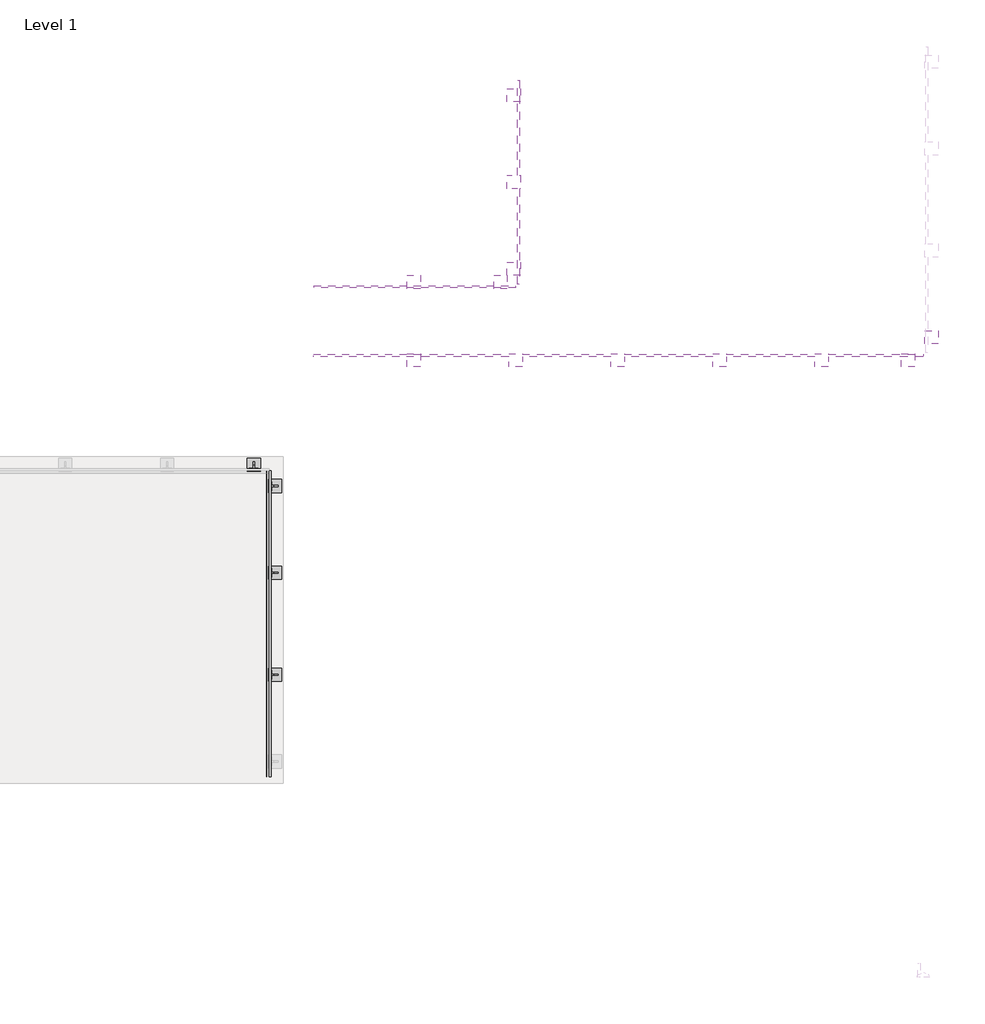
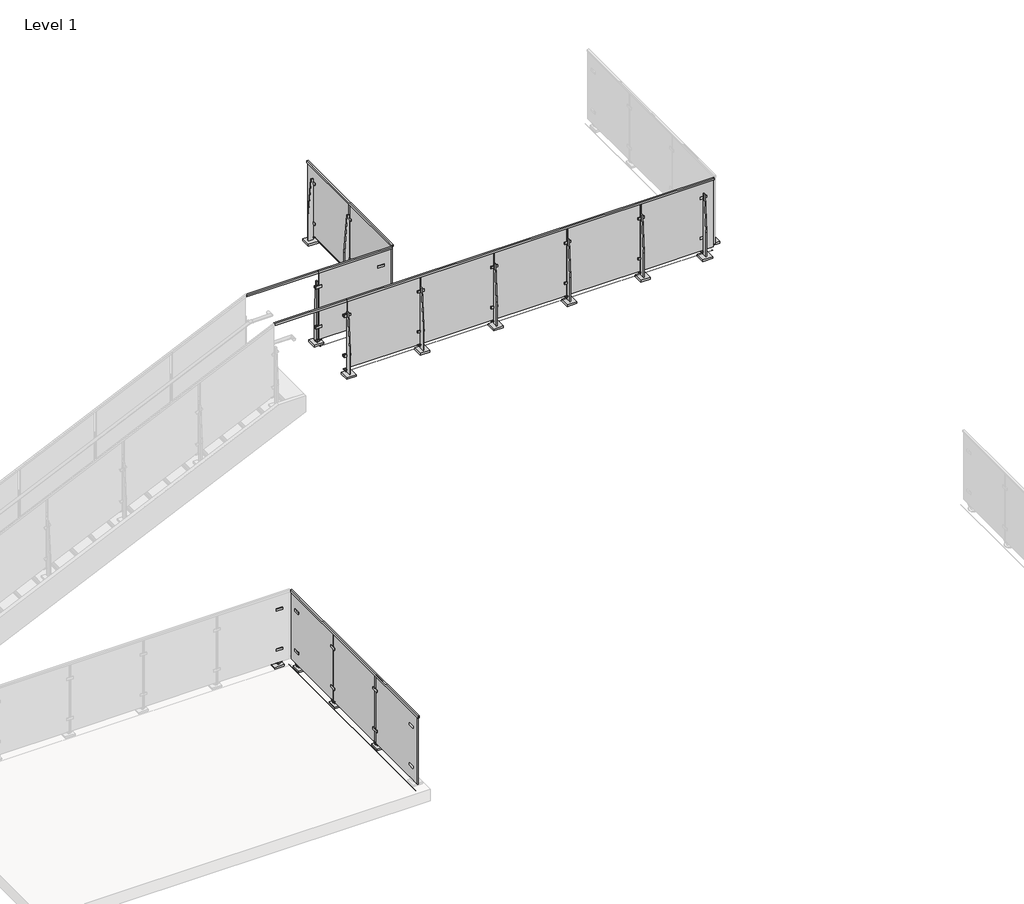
# One storey, part 12 of 37: 9 proxies, 4 railings.
"""IFC4 building model written with IfcOpenShell, lengths in millimetres."""

from ifc_helpers import new_model, si_unit, point, frame, frame_2d, origin, origin_with_axes, place, context, project, spatial, polyline, circle_curve, trimmed, segment, composite_curve, outline, extrude, faceted_brep, transform, mapped, element, save
from components import baluster_end_post_viva_solo_top_mount_e11f810b, baluster_end_post_viva_solo_top_mount_e7142cd7, baluster_end_post_viva_solo_top_mount_a5670d43, baluster_end_post_viva_solo_top_mount_67941749

model = new_model("IFC4")

# Units and contexts
model_context = context("Model", 3, world=origin())
ifc_project = project(units=[si_unit("LENGTHUNIT", "METRE", prefix="MILLI")], contexts=[model_context])

# Site, building, storey
site = spatial("IfcSite", under=ifc_project)
building = spatial("IfcBuilding", under=site)
storey = spatial("IfcBuildingStorey", under=building, Name="Level 1", Elevation=0.0)

# Proxies
placement = place(None, origin())
baluster_end_post_viva_solo_top_mount_shape = baluster_end_post_viva_solo_top_mount_e11f810b(model_context)
element("IfcBuildingElementProxy", 1, Name="Baluster-End-Post-VIVA-SOLO-Top Mount : ANCHORED TO CONCRETE_TOP MOUNT FOLD_STRAIGHT", ObjectType="Baluster-End-Post-VIVA-SOLO-Top Mount : ANCHORED TO CONCRETE_TOP MOUNT FOLD_STRAIGHT", at=placement, inside=storey, context=model_context, shape_type="MappedRepresentation", body=[
    mapped(baluster_end_post_viva_solo_top_mount_shape, transform((-7831.634081, 2406.5154135, -0.508), x_axis=(0.0, 1.0, 0.0), y_axis=(-1.0, 0.0, 0.0), z_axis=(0.0, 0.0, 1.0))),
])
element("IfcBuildingElementProxy", 2, Name="Baluster-End-Post-VIVA-SOLO-Top Mount : ANCHORED TO CONCRETE_TOP MOUNT FOLD_STRAIGHT", ObjectType="Baluster-End-Post-VIVA-SOLO-Top Mount : ANCHORED TO CONCRETE_TOP MOUNT FOLD_STRAIGHT", at=placement, inside=storey, context=model_context, shape_type="MappedRepresentation", body=[
    mapped(baluster_end_post_viva_solo_top_mount_shape, transform((-5285.1441039, 4266.1167188, 3047.492), x_axis=(0.0, -1.0, 0.0), y_axis=(1.0, 0.0, 0.0), z_axis=(0.0, 0.0, 1.0))),
])
element("IfcBuildingElementProxy", 3, Name="Baluster-End-Post-VIVA-SOLO-Top Mount : ANCHORED TO CONCRETE_TOP MOUNT FOLD_STRAIGHT", ObjectType="Baluster-End-Post-VIVA-SOLO-Top Mount : ANCHORED TO CONCRETE_TOP MOUNT FOLD_STRAIGHT", at=placement, inside=storey, context=model_context, shape_type="MappedRepresentation", body=[
    mapped(baluster_end_post_viva_solo_top_mount_shape, transform((-1284.6238306, 3589.5915519, 3047.492), x_axis=(1.0, 0.0, 0.0), y_axis=(0.0, 1.0, 0.0), z_axis=(0.0, 0.0, 1.0))),
])
baluster_end_post_viva_solo_top_mount_2_shape = baluster_end_post_viva_solo_top_mount_e7142cd7(model_context)
element("IfcBuildingElementProxy", 4, Name="Baluster-End-Post-VIVA-SOLO-Top Mount : ANCHORED TO CONCRETE_TOP MOUNT FOLD_STRAIGHT", ObjectType="Baluster-End-Post-VIVA-SOLO-Top Mount : ANCHORED TO CONCRETE_TOP MOUNT FOLD_STRAIGHT", at=placement, inside=storey, context=model_context, shape_type="MappedRepresentation", body=[
    mapped(baluster_end_post_viva_solo_top_mount_2_shape, transform((-6364.6238306, 4203.0015519, 3047.492), x_axis=(-1.0, 0.0, 0.0), y_axis=(0.0, -1.0, 0.0), z_axis=(0.0, 0.0, 1.0))),
])
baluster_end_post_viva_solo_top_mount_3_shape = baluster_end_post_viva_solo_top_mount_a5670d43(model_context)
element("IfcBuildingElementProxy", 5, Name="Baluster-End-Post-VIVA-SOLO-Top Mount : ANCHORED TO CONCRETE_TOP MOUNT FOLD_STRAIGHT", ObjectType="Baluster-End-Post-VIVA-SOLO-Top Mount : ANCHORED TO CONCRETE_TOP MOUNT FOLD_STRAIGHT", at=placement, inside=storey, context=model_context, shape_type="MappedRepresentation", body=[
    mapped(baluster_end_post_viva_solo_top_mount_3_shape, transform((-6364.6238306, 3589.5915519, 3047.492), x_axis=(1.0, 0.0, 0.0), y_axis=(0.0, 1.0, 0.0), z_axis=(0.0, 0.0, 1.0))),
])
baluster_end_post_viva_solo_top_mount_4_shape = baluster_end_post_viva_solo_top_mount_67941749(model_context)
element("IfcBuildingElementProxy", 6, Name="Baluster-End-Post-VIVA-SOLO-Top Mount : ANCHORED TO CONCRETE_TOP MOUNT FOLD_STRAIGHT", ObjectType="Baluster-End-Post-VIVA-SOLO-Top Mount : ANCHORED TO CONCRETE_TOP MOUNT FOLD_STRAIGHT", at=placement, inside=storey, context=model_context, shape_type="MappedRepresentation", body=[
    mapped(baluster_end_post_viva_solo_top_mount_4_shape, transform((-7806.551581, 2381.4329135, -0.508), x_axis=(-1.0, 0.0, 0.0), y_axis=(0.0, -1.0, 0.0), z_axis=(0.0, 0.0, 1.0))),
])
element("IfcBuildingElementProxy", 7, Name="Baluster-End-Post-VIVA-SOLO-Top Mount : ANCHORED TO CONCRETE_TOP MOUNT FOLD_STRAIGHT", ObjectType="Baluster-End-Post-VIVA-SOLO-Top Mount : ANCHORED TO CONCRETE_TOP MOUNT FOLD_STRAIGHT", at=placement, inside=storey, context=model_context, shape_type="MappedRepresentation", body=[
    mapped(baluster_end_post_viva_solo_top_mount_4_shape, transform((-5348.6238306, 4203.0015519, 3047.492), x_axis=(-1.0, 0.0, 0.0), y_axis=(0.0, -1.0, 0.0), z_axis=(0.0, 0.0, 1.0))),
])
element("IfcBuildingElementProxy", 8, Name="Baluster-End-Post-VIVA-SOLO-Top Mount : ANCHORED TO CONCRETE_TOP MOUNT FOLD_STRAIGHT", ObjectType="Baluster-End-Post-VIVA-SOLO-Top Mount : ANCHORED TO CONCRETE_TOP MOUNT FOLD_STRAIGHT", at=placement, inside=storey, context=model_context, shape_type="MappedRepresentation", body=[
    mapped(baluster_end_post_viva_solo_top_mount_4_shape, transform((-5285.1441039, 6298.1167188, 3047.492), x_axis=(0.0, -1.0, 0.0), y_axis=(1.0, 0.0, 0.0), z_axis=(0.0, 0.0, 1.0))),
])
element("IfcBuildingElementProxy", 9, Name="Baluster-End-Post-VIVA-SOLO-Top Mount : ANCHORED TO CONCRETE_TOP MOUNT FOLD_STRAIGHT", ObjectType="Baluster-End-Post-VIVA-SOLO-Top Mount : ANCHORED TO CONCRETE_TOP MOUNT FOLD_STRAIGHT", at=placement, inside=storey, context=model_context, shape_type="MappedRepresentation", body=[
    mapped(baluster_end_post_viva_solo_top_mount_4_shape, transform((-1287.6055329, 3583.9636962, 3047.492), x_axis=(0.0, 1.0, 0.0), y_axis=(-1.0, 0.0, 0.0), z_axis=(0.0, 0.0, 1.0))),
])

# Railings
element("IfcRailing", 10, ObjectType="VIVA-SOLO-Glass-Floor Mount-Straight", at=placement, inside=storey, context=model_context, shape_type="SweptSolid", body=[
    extrude(outline(composite_curve([segment(trimmed(circle_curve(frame_2d((-0.254, -7831.634081)), 0.254), [point((-0.254, -7831.888081))], [point((-0.254, -7831.380081))], False, "CARTESIAN"), True, "CONTINUOUS"), segment(trimmed(circle_curve(frame_2d((-0.254, -7831.634081)), 0.254), [point((-0.254, -7831.380081))], [point((-0.254, -7831.888081))], False, "CARTESIAN"), True, "CONTINUOUS")], self_intersect=False)), frame((0.0, -641.4845865, 0.0), z_axis=(0.0, 1.0, 0.0), x_axis=(0.0, 0.0, 1.0)), (0.0, 0.0, 1.0), 3048.0),
    extrude(outline(composite_curve([segment(trimmed(circle_curve(frame_2d((-0.254, -7831.634081)), 0.254), [point((-0.254, -7831.888081))], [point((-0.254, -7831.380081))], False, "CARTESIAN"), True, "CONTINUOUS"), segment(trimmed(circle_curve(frame_2d((-0.254, -7831.634081)), 0.254), [point((-0.254, -7831.380081))], [point((-0.254, -7831.888081))], False, "CARTESIAN"), True, "CONTINUOUS")], self_intersect=False)), frame((0.0, -641.4845865, 0.0), z_axis=(0.0, 1.0, 0.0), x_axis=(0.0, 0.0, 1.0)), (0.0, 0.0, 1.0), 3048.0),
    extrude(outline(polyline([(1079.5, -7806.551581), (1054.1, -7806.551581), (1054.1, -7801.789081), (1074.7375, -7801.789081), (1074.7375, -7789.089081), (1054.1, -7789.089081), (1054.1, -7784.326581), (1079.5, -7784.326581), (1079.5, -7806.551581)])), frame((0.0, -641.4845865, 0.0), z_axis=(0.0, 1.0, 0.0), x_axis=(0.0, 0.0, 1.0)), (0.0, 0.0, 1.0), 3048.0),
    extrude(outline(polyline([(-7801.789081, 361.4323669), (-7789.089081, 361.4323669), (-7789.089081, -629.1676331), (-7801.789081, -629.1676331), (-7801.789081, 361.4323669)])), frame((0.0, 0.0, 76.2), z_axis=(0.0, 0.0, 1.0), x_axis=(1.0, 0.0, 0.0)), (0.0, 0.0, 1.0), 998.474),
    extrude(outline(polyline([(914.4, -7779.564081), (0.0, -7779.564081), (0.0, -7716.064081), (381.0, -7716.064081), (914.4, -7754.164081), (914.4, -7779.564081)])), frame((0.0, 368.1654135, 0.0), z_axis=(0.0, 1.0, 0.0), x_axis=(0.0, 0.0, 1.0)), (0.0, 0.0, 1.0), 12.7),
    extrude(outline(polyline([(-7813.695331, 308.6341635), (-7813.695331, 440.3966635), (-7681.932831, 440.3966635), (-7681.932831, 308.6341635), (-7813.695331, 308.6341635)])), origin_with_axes(), (0.0, 0.0, 1.0), 25.4),
    extrude(outline(polyline([(-7789.089081, 418.9654135), (-7779.564081, 418.9654135), (-7779.564081, 330.0654135), (-7789.089081, 330.0654135), (-7789.089081, 418.9654135)])), frame((0.0, 0.0, 251.9910694), z_axis=(0.0, 0.0, 1.0), x_axis=(1.0, 0.0, 0.0)), (0.0, 0.0, 1.0), 31.75),
    extrude(outline(polyline([(-7789.089081, 418.9654135), (-7779.564081, 418.9654135), (-7779.564081, 330.0654135), (-7789.089081, 330.0654135), (-7789.089081, 418.9654135)])), frame((0.0, 0.0, 838.2992187), z_axis=(0.0, 0.0, 1.0), x_axis=(1.0, 0.0, 0.0)), (0.0, 0.0, 1.0), 31.75),
    extrude(outline(polyline([(-7811.314081, 418.9654135), (-7801.789081, 418.9654135), (-7801.789081, 330.0654135), (-7811.314081, 330.0654135), (-7811.314081, 418.9654135)])), frame((0.0, 0.0, 251.9910694), z_axis=(0.0, 0.0, 1.0), x_axis=(1.0, 0.0, 0.0)), (0.0, 0.0, 1.0), 31.75),
    extrude(outline(polyline([(-7811.314081, 418.9654135), (-7801.789081, 418.9654135), (-7801.789081, 330.0654135), (-7811.314081, 330.0654135), (-7811.314081, 418.9654135)])), frame((0.0, 0.0, 838.2992187), z_axis=(0.0, 0.0, 1.0), x_axis=(1.0, 0.0, 0.0)), (0.0, 0.0, 1.0), 31.75),
    extrude(outline(polyline([(330.0654135, 76.2), (418.9654135, 76.2), (418.9654135, 69.85), (374.5154135, 47.9353513), (330.0654135, 69.85), (330.0654135, 76.2)])), frame((-7801.789081, 0.0, 0.0), z_axis=(1.0, 0.0, 0.0), x_axis=(0.0, 1.0, 0.0)), (0.0, 0.0, 1.0), 12.7),
    extrude(outline(composite_curve([segment(trimmed(circle_curve(frame_2d((374.5154135, 267.8660694)), 6.35), [point((368.1654135, 267.8660694))], [point((380.8654135, 267.8660694))], False, "CARTESIAN"), True, "CONTINUOUS"), segment(trimmed(circle_curve(frame_2d((374.5154135, 267.8660694)), 6.35), [point((380.8654135, 267.8660694))], [point((368.1654135, 267.8660694))], False, "CARTESIAN"), True, "CONTINUOUS")], self_intersect=False)), frame((-7801.789081, 0.0, 0.0), z_axis=(1.0, 0.0, 0.0), x_axis=(0.0, 1.0, 0.0)), (0.0, 0.0, 1.0), 12.7),
    extrude(outline(composite_curve([segment(trimmed(circle_curve(frame_2d((374.5154135, 854.1742187)), 6.35), [point((368.1654135, 854.1742187))], [point((380.8654135, 854.1742187))], False, "CARTESIAN"), True, "CONTINUOUS"), segment(trimmed(circle_curve(frame_2d((374.5154135, 854.1742187)), 6.35), [point((380.8654135, 854.1742187))], [point((368.1654135, 854.1742187))], False, "CARTESIAN"), True, "CONTINUOUS")], self_intersect=False)), frame((-7801.789081, 0.0, 0.0), z_axis=(1.0, 0.0, 0.0), x_axis=(0.0, 1.0, 0.0)), (0.0, 0.0, 1.0), 12.7),
    extrude(outline(composite_curve([segment(trimmed(circle_curve(frame_2d((374.5154135, 60.325)), 11.1125), [point((363.4029135, 60.325))], [point((385.6279135, 60.325))], False, "CARTESIAN"), True, "CONTINUOUS"), segment(trimmed(circle_curve(frame_2d((374.5154135, 60.325)), 11.1125), [point((385.6279135, 60.325))], [point((363.4029135, 60.325))], False, "CARTESIAN"), True, "CONTINUOUS")], self_intersect=False)), frame((-7804.964081, 0.0, 0.0), z_axis=(1.0, 0.0, 0.0), x_axis=(0.0, 1.0, 0.0)), (0.0, 0.0, 1.0), 25.4),
    extrude(outline(polyline([(-7801.789081, 1377.4323669), (-7789.089081, 1377.4323669), (-7789.089081, 386.8323669), (-7801.789081, 386.8323669), (-7801.789081, 1377.4323669)])), frame((0.0, 0.0, 76.2), z_axis=(0.0, 0.0, 1.0), x_axis=(1.0, 0.0, 0.0)), (0.0, 0.0, 1.0), 998.474),
    extrude(outline(polyline([(914.4, -7779.564081), (0.0, -7779.564081), (0.0, -7716.064081), (381.0, -7716.064081), (914.4, -7754.164081), (914.4, -7779.564081)])), frame((0.0, 1384.1654135, 0.0), z_axis=(0.0, 1.0, 0.0), x_axis=(0.0, 0.0, 1.0)), (0.0, 0.0, 1.0), 12.7),
    extrude(outline(polyline([(-7813.695331, 1324.6341635), (-7813.695331, 1456.3966635), (-7681.932831, 1456.3966635), (-7681.932831, 1324.6341635), (-7813.695331, 1324.6341635)])), origin_with_axes(), (0.0, 0.0, 1.0), 25.4),
    extrude(outline(polyline([(-7789.089081, 1434.9654135), (-7779.564081, 1434.9654135), (-7779.564081, 1346.0654135), (-7789.089081, 1346.0654135), (-7789.089081, 1434.9654135)])), frame((0.0, 0.0, 251.9910694), z_axis=(0.0, 0.0, 1.0), x_axis=(1.0, 0.0, 0.0)), (0.0, 0.0, 1.0), 31.75),
    extrude(outline(polyline([(-7789.089081, 1434.9654135), (-7779.564081, 1434.9654135), (-7779.564081, 1346.0654135), (-7789.089081, 1346.0654135), (-7789.089081, 1434.9654135)])), frame((0.0, 0.0, 838.2992187), z_axis=(0.0, 0.0, 1.0), x_axis=(1.0, 0.0, 0.0)), (0.0, 0.0, 1.0), 31.75),
    extrude(outline(polyline([(-7811.314081, 1434.9654135), (-7801.789081, 1434.9654135), (-7801.789081, 1346.0654135), (-7811.314081, 1346.0654135), (-7811.314081, 1434.9654135)])), frame((0.0, 0.0, 251.9910694), z_axis=(0.0, 0.0, 1.0), x_axis=(1.0, 0.0, 0.0)), (0.0, 0.0, 1.0), 31.75),
    extrude(outline(polyline([(-7811.314081, 1434.9654135), (-7801.789081, 1434.9654135), (-7801.789081, 1346.0654135), (-7811.314081, 1346.0654135), (-7811.314081, 1434.9654135)])), frame((0.0, 0.0, 838.2992187), z_axis=(0.0, 0.0, 1.0), x_axis=(1.0, 0.0, 0.0)), (0.0, 0.0, 1.0), 31.75),
    extrude(outline(polyline([(1346.0654135, 76.2), (1434.9654135, 76.2), (1434.9654135, 69.85), (1390.5154135, 47.9353513), (1346.0654135, 69.85), (1346.0654135, 76.2)])), frame((-7801.789081, 0.0, 0.0), z_axis=(1.0, 0.0, 0.0), x_axis=(0.0, 1.0, 0.0)), (0.0, 0.0, 1.0), 12.7),
    extrude(outline(composite_curve([segment(trimmed(circle_curve(frame_2d((1390.5154135, 267.8660694)), 6.35), [point((1384.1654135, 267.8660694))], [point((1396.8654135, 267.8660694))], False, "CARTESIAN"), True, "CONTINUOUS"), segment(trimmed(circle_curve(frame_2d((1390.5154135, 267.8660694)), 6.35), [point((1396.8654135, 267.8660694))], [point((1384.1654135, 267.8660694))], False, "CARTESIAN"), True, "CONTINUOUS")], self_intersect=False)), frame((-7801.789081, 0.0, 0.0), z_axis=(1.0, 0.0, 0.0), x_axis=(0.0, 1.0, 0.0)), (0.0, 0.0, 1.0), 12.7),
    extrude(outline(composite_curve([segment(trimmed(circle_curve(frame_2d((1390.5154135, 854.1742187)), 6.35), [point((1384.1654135, 854.1742187))], [point((1396.8654135, 854.1742187))], False, "CARTESIAN"), True, "CONTINUOUS"), segment(trimmed(circle_curve(frame_2d((1390.5154135, 854.1742187)), 6.35), [point((1396.8654135, 854.1742187))], [point((1384.1654135, 854.1742187))], False, "CARTESIAN"), True, "CONTINUOUS")], self_intersect=False)), frame((-7801.789081, 0.0, 0.0), z_axis=(1.0, 0.0, 0.0), x_axis=(0.0, 1.0, 0.0)), (0.0, 0.0, 1.0), 12.7),
    extrude(outline(composite_curve([segment(trimmed(circle_curve(frame_2d((1390.5154135, 60.325)), 11.1125), [point((1379.4029135, 60.325))], [point((1401.6279135, 60.325))], False, "CARTESIAN"), True, "CONTINUOUS"), segment(trimmed(circle_curve(frame_2d((1390.5154135, 60.325)), 11.1125), [point((1401.6279135, 60.325))], [point((1379.4029135, 60.325))], False, "CARTESIAN"), True, "CONTINUOUS")], self_intersect=False)), frame((-7804.964081, 0.0, 0.0), z_axis=(1.0, 0.0, 0.0), x_axis=(0.0, 1.0, 0.0)), (0.0, 0.0, 1.0), 25.4),
    extrude(outline(polyline([(-7801.789081, 2393.4323669), (-7789.089081, 2393.4323669), (-7789.089081, 1402.8323669), (-7801.789081, 1402.8323669), (-7801.789081, 2393.4323669)])), frame((0.0, 0.0, 76.2), z_axis=(0.0, 0.0, 1.0), x_axis=(1.0, 0.0, 0.0)), (0.0, 0.0, 1.0), 998.474),
])
element("IfcRailing", 11, ObjectType="VIVA-SOLO-Glass-Floor Mount-Straight", at=placement, inside=storey, context=model_context, shape_type="SolidModel", body=[
    extrude(outline(composite_curve([segment(trimmed(circle_curve(frame_2d((3589.5915519, 3047.746)), 0.254), [point((3589.3375519, 3047.746))], [point((3589.8455519, 3047.746))], False, "CARTESIAN"), True, "CONTINUOUS"), segment(trimmed(circle_curve(frame_2d((3589.5915519, 3047.746)), 0.254), [point((3589.8455519, 3047.746))], [point((3589.3375519, 3047.746))], False, "CARTESIAN"), True, "CONTINUOUS")], self_intersect=False)), frame((-6364.6238306, 0.0, 0.0), z_axis=(1.0, 0.0, 0.0), x_axis=(0.0, 1.0, 0.0)), (0.0, 0.0, 1.0), 5080.0),
    extrude(outline(composite_curve([segment(trimmed(circle_curve(frame_2d((3589.5915519, 3047.746)), 0.254), [point((3589.3375519, 3047.746))], [point((3589.8455519, 3047.746))], False, "CARTESIAN"), True, "CONTINUOUS"), segment(trimmed(circle_curve(frame_2d((3589.5915519, 3047.746)), 0.254), [point((3589.8455519, 3047.746))], [point((3589.3375519, 3047.746))], False, "CARTESIAN"), True, "CONTINUOUS")], self_intersect=False)), frame((-6364.6238306, 0.0, 0.0), z_axis=(1.0, 0.0, 0.0), x_axis=(0.0, 1.0, 0.0)), (0.0, 0.0, 1.0), 5080.0),
    faceted_brep([(-1284.6238306, 3542.2840519, 4127.5), (-1284.6238306, 3542.2840519, 4102.1), (-1284.6238306, 3547.0465519, 4102.1), (-1284.6238306, 3547.0465519, 4122.7375), (-1284.6238306, 3559.7465519, 4122.7375), (-1284.6238306, 3559.7465519, 4102.1), (-1284.6238306, 3564.5090519, 4102.1), (-1284.6238306, 3564.5090519, 4127.5), (-6364.6238306, 3564.5090519, 4127.5), (-6364.6238306, 3542.2840519, 4127.5), (-6364.6238306, 3564.5090519, 4102.1), (-6364.6238306, 3559.7465519, 4102.1), (-6364.6238306, 3559.7465519, 4122.7375), (-6364.6238306, 3547.0465519, 4122.7375), (-6364.6238306, 3547.0465519, 4102.1), (-6364.6238306, 3542.2840519, 4102.1), (-7365.0345806, 3542.2840519, 4127.5), (-7365.0345806, 3564.5090519, 4127.5), (-7365.0345806, 3564.5090519, 4102.1), (-7365.0345806, 3559.7465519, 4102.1), (-7365.0345806, 3559.7465519, 4122.7375), (-7365.0345806, 3547.0465519, 4122.7375), (-7365.0345806, 3547.0465519, 4102.1), (-7365.0345806, 3542.2840519, 4102.1)], [[[0, 1, 2, 3, 4, 5, 6, 7]], [[8, 9, 0, 7]], [[10, 8, 7, 6]], [[11, 10, 6, 5]], [[12, 11, 5, 4]], [[13, 12, 4, 3]], [[14, 13, 3, 2]], [[15, 14, 2, 1]], [[9, 15, 1, 0]], [[16, 17, 18, 19, 20, 21, 22, 23]], [[17, 16, 9, 8]], [[18, 17, 8, 10]], [[19, 18, 10, 11]], [[20, 19, 11, 12]], [[21, 20, 12, 13]], [[22, 21, 13, 14]], [[23, 22, 14, 15]], [[16, 23, 15, 9]]]),
    extrude(outline(polyline([(-2287.540784, 3559.7465519), (-1296.940784, 3559.7465519), (-1296.940784, 3547.0465519), (-2287.540784, 3547.0465519), (-2287.540784, 3559.7465519)])), frame((0.0, 0.0, 3124.2), z_axis=(0.0, 0.0, 1.0), x_axis=(1.0, 0.0, 0.0)), (0.0, 0.0, 1.0), 998.474),
    extrude(outline(polyline([(3537.5215519, 3962.4), (3537.5215519, 3048.0), (3474.0215519, 3048.0), (3474.0215519, 3429.0), (3512.1215519, 3962.4), (3537.5215519, 3962.4)])), frame((-2306.9738306, 0.0, 0.0), z_axis=(1.0, 0.0, 0.0), x_axis=(0.0, 1.0, 0.0)), (0.0, 0.0, 1.0), 12.7),
    extrude(outline(polyline([(-2234.7425806, 3571.6528019), (-2234.7425806, 3439.8903019), (-2366.5050806, 3439.8903019), (-2366.5050806, 3571.6528019), (-2234.7425806, 3571.6528019)])), frame((0.0, 0.0, 3048.0), z_axis=(0.0, 0.0, 1.0), x_axis=(1.0, 0.0, 0.0)), (0.0, 0.0, 1.0), 25.4),
    extrude(outline(polyline([(-2345.0738306, 3547.0465519), (-2256.1738306, 3547.0465519), (-2256.1738306, 3537.5215519), (-2345.0738306, 3537.5215519), (-2345.0738306, 3547.0465519)])), frame((0.0, 0.0, 3299.9910694), z_axis=(0.0, 0.0, 1.0), x_axis=(1.0, 0.0, 0.0)), (0.0, 0.0, 1.0), 31.75),
    extrude(outline(polyline([(-2345.0738306, 3547.0465519), (-2256.1738306, 3547.0465519), (-2256.1738306, 3537.5215519), (-2345.0738306, 3537.5215519), (-2345.0738306, 3547.0465519)])), frame((0.0, 0.0, 3886.2992187), z_axis=(0.0, 0.0, 1.0), x_axis=(1.0, 0.0, 0.0)), (0.0, 0.0, 1.0), 31.75),
    extrude(outline(polyline([(-2345.0738306, 3569.2715519), (-2256.1738306, 3569.2715519), (-2256.1738306, 3559.7465519), (-2345.0738306, 3559.7465519), (-2345.0738306, 3569.2715519)])), frame((0.0, 0.0, 3299.9910694), z_axis=(0.0, 0.0, 1.0), x_axis=(1.0, 0.0, 0.0)), (0.0, 0.0, 1.0), 31.75),
    extrude(outline(polyline([(-2345.0738306, 3569.2715519), (-2256.1738306, 3569.2715519), (-2256.1738306, 3559.7465519), (-2345.0738306, 3559.7465519), (-2345.0738306, 3569.2715519)])), frame((0.0, 0.0, 3886.2992187), z_axis=(0.0, 0.0, 1.0), x_axis=(1.0, 0.0, 0.0)), (0.0, 0.0, 1.0), 31.75),
    extrude(outline(polyline([(3124.2, -2256.1738306), (3124.2, -2345.0738306), (3117.85, -2345.0738306), (3095.9353513, -2300.6238306), (3117.85, -2256.1738306), (3124.2, -2256.1738306)])), frame((0.0, 3547.0465519, 0.0), z_axis=(0.0, 1.0, 0.0), x_axis=(0.0, 0.0, 1.0)), (0.0, 0.0, 1.0), 12.7),
    extrude(outline(composite_curve([segment(trimmed(circle_curve(frame_2d((3315.8660694, -2300.6238306)), 6.35), [point((3315.8660694, -2294.2738306))], [point((3315.8660694, -2306.9738306))], False, "CARTESIAN"), True, "CONTINUOUS"), segment(trimmed(circle_curve(frame_2d((3315.8660694, -2300.6238306)), 6.35), [point((3315.8660694, -2306.9738306))], [point((3315.8660694, -2294.2738306))], False, "CARTESIAN"), True, "CONTINUOUS")], self_intersect=False)), frame((0.0, 3547.0465519, 0.0), z_axis=(0.0, 1.0, 0.0), x_axis=(0.0, 0.0, 1.0)), (0.0, 0.0, 1.0), 12.7),
    extrude(outline(composite_curve([segment(trimmed(circle_curve(frame_2d((3902.1742187, -2300.6238306)), 6.35), [point((3902.1742187, -2294.2738306))], [point((3902.1742187, -2306.9738306))], False, "CARTESIAN"), True, "CONTINUOUS"), segment(trimmed(circle_curve(frame_2d((3902.1742187, -2300.6238306)), 6.35), [point((3902.1742187, -2306.9738306))], [point((3902.1742187, -2294.2738306))], False, "CARTESIAN"), True, "CONTINUOUS")], self_intersect=False)), frame((0.0, 3547.0465519, 0.0), z_axis=(0.0, 1.0, 0.0), x_axis=(0.0, 0.0, 1.0)), (0.0, 0.0, 1.0), 12.7),
    extrude(outline(composite_curve([segment(trimmed(circle_curve(frame_2d((3108.325, -2300.6238306)), 11.1125), [point((3108.325, -2289.5113306))], [point((3108.325, -2311.7363306))], False, "CARTESIAN"), True, "CONTINUOUS"), segment(trimmed(circle_curve(frame_2d((3108.325, -2300.6238306)), 11.1125), [point((3108.325, -2311.7363306))], [point((3108.325, -2289.5113306))], False, "CARTESIAN"), True, "CONTINUOUS")], self_intersect=False)), frame((0.0, 3537.5215519, 0.0), z_axis=(0.0, 1.0, 0.0), x_axis=(0.0, 0.0, 1.0)), (0.0, 0.0, 1.0), 25.4),
    extrude(outline(polyline([(-3303.540784, 3559.7465519), (-2312.940784, 3559.7465519), (-2312.940784, 3547.0465519), (-3303.540784, 3547.0465519), (-3303.540784, 3559.7465519)])), frame((0.0, 0.0, 3124.2), z_axis=(0.0, 0.0, 1.0), x_axis=(1.0, 0.0, 0.0)), (0.0, 0.0, 1.0), 998.474),
    extrude(outline(polyline([(3537.5215519, 3962.4), (3537.5215519, 3048.0), (3474.0215519, 3048.0), (3474.0215519, 3429.0), (3512.1215519, 3962.4), (3537.5215519, 3962.4)])), frame((-3322.9738306, 0.0, 0.0), z_axis=(1.0, 0.0, 0.0), x_axis=(0.0, 1.0, 0.0)), (0.0, 0.0, 1.0), 12.7),
    extrude(outline(polyline([(-3250.7425806, 3571.6528019), (-3250.7425806, 3439.8903019), (-3382.5050806, 3439.8903019), (-3382.5050806, 3571.6528019), (-3250.7425806, 3571.6528019)])), frame((0.0, 0.0, 3048.0), z_axis=(0.0, 0.0, 1.0), x_axis=(1.0, 0.0, 0.0)), (0.0, 0.0, 1.0), 25.4),
    extrude(outline(polyline([(-3361.0738306, 3547.0465519), (-3272.1738306, 3547.0465519), (-3272.1738306, 3537.5215519), (-3361.0738306, 3537.5215519), (-3361.0738306, 3547.0465519)])), frame((0.0, 0.0, 3299.9910694), z_axis=(0.0, 0.0, 1.0), x_axis=(1.0, 0.0, 0.0)), (0.0, 0.0, 1.0), 31.75),
    extrude(outline(polyline([(-3361.0738306, 3547.0465519), (-3272.1738306, 3547.0465519), (-3272.1738306, 3537.5215519), (-3361.0738306, 3537.5215519), (-3361.0738306, 3547.0465519)])), frame((0.0, 0.0, 3886.2992187), z_axis=(0.0, 0.0, 1.0), x_axis=(1.0, 0.0, 0.0)), (0.0, 0.0, 1.0), 31.75),
    extrude(outline(polyline([(-3361.0738306, 3569.2715519), (-3272.1738306, 3569.2715519), (-3272.1738306, 3559.7465519), (-3361.0738306, 3559.7465519), (-3361.0738306, 3569.2715519)])), frame((0.0, 0.0, 3299.9910694), z_axis=(0.0, 0.0, 1.0), x_axis=(1.0, 0.0, 0.0)), (0.0, 0.0, 1.0), 31.75),
    extrude(outline(polyline([(-3361.0738306, 3569.2715519), (-3272.1738306, 3569.2715519), (-3272.1738306, 3559.7465519), (-3361.0738306, 3559.7465519), (-3361.0738306, 3569.2715519)])), frame((0.0, 0.0, 3886.2992187), z_axis=(0.0, 0.0, 1.0), x_axis=(1.0, 0.0, 0.0)), (0.0, 0.0, 1.0), 31.75),
    extrude(outline(polyline([(3124.2, -3272.1738306), (3124.2, -3361.0738306), (3117.85, -3361.0738306), (3095.9353513, -3316.6238306), (3117.85, -3272.1738306), (3124.2, -3272.1738306)])), frame((0.0, 3547.0465519, 0.0), z_axis=(0.0, 1.0, 0.0), x_axis=(0.0, 0.0, 1.0)), (0.0, 0.0, 1.0), 12.7),
    extrude(outline(composite_curve([segment(trimmed(circle_curve(frame_2d((3315.8660694, -3316.6238306)), 6.35), [point((3315.8660694, -3310.2738306))], [point((3315.8660694, -3322.9738306))], False, "CARTESIAN"), True, "CONTINUOUS"), segment(trimmed(circle_curve(frame_2d((3315.8660694, -3316.6238306)), 6.35), [point((3315.8660694, -3322.9738306))], [point((3315.8660694, -3310.2738306))], False, "CARTESIAN"), True, "CONTINUOUS")], self_intersect=False)), frame((0.0, 3547.0465519, 0.0), z_axis=(0.0, 1.0, 0.0), x_axis=(0.0, 0.0, 1.0)), (0.0, 0.0, 1.0), 12.7),
    extrude(outline(composite_curve([segment(trimmed(circle_curve(frame_2d((3902.1742187, -3316.6238306)), 6.35), [point((3902.1742187, -3310.2738306))], [point((3902.1742187, -3322.9738306))], False, "CARTESIAN"), True, "CONTINUOUS"), segment(trimmed(circle_curve(frame_2d((3902.1742187, -3316.6238306)), 6.35), [point((3902.1742187, -3322.9738306))], [point((3902.1742187, -3310.2738306))], False, "CARTESIAN"), True, "CONTINUOUS")], self_intersect=False)), frame((0.0, 3547.0465519, 0.0), z_axis=(0.0, 1.0, 0.0), x_axis=(0.0, 0.0, 1.0)), (0.0, 0.0, 1.0), 12.7),
    extrude(outline(composite_curve([segment(trimmed(circle_curve(frame_2d((3108.325, -3316.6238306)), 11.1125), [point((3108.325, -3305.5113306))], [point((3108.325, -3327.7363306))], False, "CARTESIAN"), True, "CONTINUOUS"), segment(trimmed(circle_curve(frame_2d((3108.325, -3316.6238306)), 11.1125), [point((3108.325, -3327.7363306))], [point((3108.325, -3305.5113306))], False, "CARTESIAN"), True, "CONTINUOUS")], self_intersect=False)), frame((0.0, 3537.5215519, 0.0), z_axis=(0.0, 1.0, 0.0), x_axis=(0.0, 0.0, 1.0)), (0.0, 0.0, 1.0), 25.4),
    extrude(outline(polyline([(-4319.540784, 3559.7465519), (-3328.940784, 3559.7465519), (-3328.940784, 3547.0465519), (-4319.540784, 3547.0465519), (-4319.540784, 3559.7465519)])), frame((0.0, 0.0, 3124.2), z_axis=(0.0, 0.0, 1.0), x_axis=(1.0, 0.0, 0.0)), (0.0, 0.0, 1.0), 998.474),
    extrude(outline(polyline([(3537.5215519, 3962.4), (3537.5215519, 3048.0), (3474.0215519, 3048.0), (3474.0215519, 3429.0), (3512.1215519, 3962.4), (3537.5215519, 3962.4)])), frame((-4338.9738306, 0.0, 0.0), z_axis=(1.0, 0.0, 0.0), x_axis=(0.0, 1.0, 0.0)), (0.0, 0.0, 1.0), 12.7),
    extrude(outline(polyline([(-4266.7425806, 3571.6528019), (-4266.7425806, 3439.8903019), (-4398.5050806, 3439.8903019), (-4398.5050806, 3571.6528019), (-4266.7425806, 3571.6528019)])), frame((0.0, 0.0, 3048.0), z_axis=(0.0, 0.0, 1.0), x_axis=(1.0, 0.0, 0.0)), (0.0, 0.0, 1.0), 25.4),
    extrude(outline(polyline([(-4377.0738306, 3547.0465519), (-4288.1738306, 3547.0465519), (-4288.1738306, 3537.5215519), (-4377.0738306, 3537.5215519), (-4377.0738306, 3547.0465519)])), frame((0.0, 0.0, 3299.9910694), z_axis=(0.0, 0.0, 1.0), x_axis=(1.0, 0.0, 0.0)), (0.0, 0.0, 1.0), 31.75),
    extrude(outline(polyline([(-4377.0738306, 3547.0465519), (-4288.1738306, 3547.0465519), (-4288.1738306, 3537.5215519), (-4377.0738306, 3537.5215519), (-4377.0738306, 3547.0465519)])), frame((0.0, 0.0, 3886.2992187), z_axis=(0.0, 0.0, 1.0), x_axis=(1.0, 0.0, 0.0)), (0.0, 0.0, 1.0), 31.75),
    extrude(outline(polyline([(-4377.0738306, 3569.2715519), (-4288.1738306, 3569.2715519), (-4288.1738306, 3559.7465519), (-4377.0738306, 3559.7465519), (-4377.0738306, 3569.2715519)])), frame((0.0, 0.0, 3299.9910694), z_axis=(0.0, 0.0, 1.0), x_axis=(1.0, 0.0, 0.0)), (0.0, 0.0, 1.0), 31.75),
    extrude(outline(polyline([(-4377.0738306, 3569.2715519), (-4288.1738306, 3569.2715519), (-4288.1738306, 3559.7465519), (-4377.0738306, 3559.7465519), (-4377.0738306, 3569.2715519)])), frame((0.0, 0.0, 3886.2992187), z_axis=(0.0, 0.0, 1.0), x_axis=(1.0, 0.0, 0.0)), (0.0, 0.0, 1.0), 31.75),
    extrude(outline(polyline([(3124.2, -4288.1738306), (3124.2, -4377.0738306), (3117.85, -4377.0738306), (3095.9353513, -4332.6238306), (3117.85, -4288.1738306), (3124.2, -4288.1738306)])), frame((0.0, 3547.0465519, 0.0), z_axis=(0.0, 1.0, 0.0), x_axis=(0.0, 0.0, 1.0)), (0.0, 0.0, 1.0), 12.7),
    extrude(outline(composite_curve([segment(trimmed(circle_curve(frame_2d((3315.8660694, -4332.6238306)), 6.35), [point((3315.8660694, -4326.2738306))], [point((3315.8660694, -4338.9738306))], False, "CARTESIAN"), True, "CONTINUOUS"), segment(trimmed(circle_curve(frame_2d((3315.8660694, -4332.6238306)), 6.35), [point((3315.8660694, -4338.9738306))], [point((3315.8660694, -4326.2738306))], False, "CARTESIAN"), True, "CONTINUOUS")], self_intersect=False)), frame((0.0, 3547.0465519, 0.0), z_axis=(0.0, 1.0, 0.0), x_axis=(0.0, 0.0, 1.0)), (0.0, 0.0, 1.0), 12.7),
    extrude(outline(composite_curve([segment(trimmed(circle_curve(frame_2d((3902.1742187, -4332.6238306)), 6.35), [point((3902.1742187, -4326.2738306))], [point((3902.1742187, -4338.9738306))], False, "CARTESIAN"), True, "CONTINUOUS"), segment(trimmed(circle_curve(frame_2d((3902.1742187, -4332.6238306)), 6.35), [point((3902.1742187, -4338.9738306))], [point((3902.1742187, -4326.2738306))], False, "CARTESIAN"), True, "CONTINUOUS")], self_intersect=False)), frame((0.0, 3547.0465519, 0.0), z_axis=(0.0, 1.0, 0.0), x_axis=(0.0, 0.0, 1.0)), (0.0, 0.0, 1.0), 12.7),
    extrude(outline(composite_curve([segment(trimmed(circle_curve(frame_2d((3108.325, -4332.6238306)), 11.1125), [point((3108.325, -4321.5113306))], [point((3108.325, -4343.7363306))], False, "CARTESIAN"), True, "CONTINUOUS"), segment(trimmed(circle_curve(frame_2d((3108.325, -4332.6238306)), 11.1125), [point((3108.325, -4343.7363306))], [point((3108.325, -4321.5113306))], False, "CARTESIAN"), True, "CONTINUOUS")], self_intersect=False)), frame((0.0, 3537.5215519, 0.0), z_axis=(0.0, 1.0, 0.0), x_axis=(0.0, 0.0, 1.0)), (0.0, 0.0, 1.0), 25.4),
    extrude(outline(polyline([(-5335.540784, 3559.7465519), (-4344.940784, 3559.7465519), (-4344.940784, 3547.0465519), (-5335.540784, 3547.0465519), (-5335.540784, 3559.7465519)])), frame((0.0, 0.0, 3124.2), z_axis=(0.0, 0.0, 1.0), x_axis=(1.0, 0.0, 0.0)), (0.0, 0.0, 1.0), 998.474),
    extrude(outline(polyline([(3537.5215519, 3962.4), (3537.5215519, 3048.0), (3474.0215519, 3048.0), (3474.0215519, 3429.0), (3512.1215519, 3962.4), (3537.5215519, 3962.4)])), frame((-5354.9738306, 0.0, 0.0), z_axis=(1.0, 0.0, 0.0), x_axis=(0.0, 1.0, 0.0)), (0.0, 0.0, 1.0), 12.7),
    extrude(outline(polyline([(-5282.7425806, 3571.6528019), (-5282.7425806, 3439.8903019), (-5414.5050806, 3439.8903019), (-5414.5050806, 3571.6528019), (-5282.7425806, 3571.6528019)])), frame((0.0, 0.0, 3048.0), z_axis=(0.0, 0.0, 1.0), x_axis=(1.0, 0.0, 0.0)), (0.0, 0.0, 1.0), 25.4),
    extrude(outline(polyline([(-5393.0738306, 3547.0465519), (-5304.1738306, 3547.0465519), (-5304.1738306, 3537.5215519), (-5393.0738306, 3537.5215519), (-5393.0738306, 3547.0465519)])), frame((0.0, 0.0, 3299.9910694), z_axis=(0.0, 0.0, 1.0), x_axis=(1.0, 0.0, 0.0)), (0.0, 0.0, 1.0), 31.75),
    extrude(outline(polyline([(-5393.0738306, 3547.0465519), (-5304.1738306, 3547.0465519), (-5304.1738306, 3537.5215519), (-5393.0738306, 3537.5215519), (-5393.0738306, 3547.0465519)])), frame((0.0, 0.0, 3886.2992187), z_axis=(0.0, 0.0, 1.0), x_axis=(1.0, 0.0, 0.0)), (0.0, 0.0, 1.0), 31.75),
    extrude(outline(polyline([(-5393.0738306, 3569.2715519), (-5304.1738306, 3569.2715519), (-5304.1738306, 3559.7465519), (-5393.0738306, 3559.7465519), (-5393.0738306, 3569.2715519)])), frame((0.0, 0.0, 3299.9910694), z_axis=(0.0, 0.0, 1.0), x_axis=(1.0, 0.0, 0.0)), (0.0, 0.0, 1.0), 31.75),
    extrude(outline(polyline([(-5393.0738306, 3569.2715519), (-5304.1738306, 3569.2715519), (-5304.1738306, 3559.7465519), (-5393.0738306, 3559.7465519), (-5393.0738306, 3569.2715519)])), frame((0.0, 0.0, 3886.2992187), z_axis=(0.0, 0.0, 1.0), x_axis=(1.0, 0.0, 0.0)), (0.0, 0.0, 1.0), 31.75),
    extrude(outline(polyline([(3124.2, -5304.1738306), (3124.2, -5393.0738306), (3117.85, -5393.0738306), (3095.9353513, -5348.6238306), (3117.85, -5304.1738306), (3124.2, -5304.1738306)])), frame((0.0, 3547.0465519, 0.0), z_axis=(0.0, 1.0, 0.0), x_axis=(0.0, 0.0, 1.0)), (0.0, 0.0, 1.0), 12.7),
    extrude(outline(composite_curve([segment(trimmed(circle_curve(frame_2d((3315.8660694, -5348.6238306)), 6.35), [point((3315.8660694, -5342.2738306))], [point((3315.8660694, -5354.9738306))], False, "CARTESIAN"), True, "CONTINUOUS"), segment(trimmed(circle_curve(frame_2d((3315.8660694, -5348.6238306)), 6.35), [point((3315.8660694, -5354.9738306))], [point((3315.8660694, -5342.2738306))], False, "CARTESIAN"), True, "CONTINUOUS")], self_intersect=False)), frame((0.0, 3547.0465519, 0.0), z_axis=(0.0, 1.0, 0.0), x_axis=(0.0, 0.0, 1.0)), (0.0, 0.0, 1.0), 12.7),
    extrude(outline(composite_curve([segment(trimmed(circle_curve(frame_2d((3902.1742187, -5348.6238306)), 6.35), [point((3902.1742187, -5342.2738306))], [point((3902.1742187, -5354.9738306))], False, "CARTESIAN"), True, "CONTINUOUS"), segment(trimmed(circle_curve(frame_2d((3902.1742187, -5348.6238306)), 6.35), [point((3902.1742187, -5354.9738306))], [point((3902.1742187, -5342.2738306))], False, "CARTESIAN"), True, "CONTINUOUS")], self_intersect=False)), frame((0.0, 3547.0465519, 0.0), z_axis=(0.0, 1.0, 0.0), x_axis=(0.0, 0.0, 1.0)), (0.0, 0.0, 1.0), 12.7),
    extrude(outline(composite_curve([segment(trimmed(circle_curve(frame_2d((3108.325, -5348.6238306)), 11.1125), [point((3108.325, -5337.5113306))], [point((3108.325, -5359.7363306))], False, "CARTESIAN"), True, "CONTINUOUS"), segment(trimmed(circle_curve(frame_2d((3108.325, -5348.6238306)), 11.1125), [point((3108.325, -5359.7363306))], [point((3108.325, -5337.5113306))], False, "CARTESIAN"), True, "CONTINUOUS")], self_intersect=False)), frame((0.0, 3537.5215519, 0.0), z_axis=(0.0, 1.0, 0.0), x_axis=(0.0, 0.0, 1.0)), (0.0, 0.0, 1.0), 25.4),
    extrude(outline(polyline([(-6351.540784, 3559.7465519), (-5360.940784, 3559.7465519), (-5360.940784, 3547.0465519), (-6351.540784, 3547.0465519), (-6351.540784, 3559.7465519)])), frame((0.0, 0.0, 3124.2), z_axis=(0.0, 0.0, 1.0), x_axis=(1.0, 0.0, 0.0)), (0.0, 0.0, 1.0), 998.474),
])
element("IfcRailing", 12, ObjectType="VIVA-SOLO-Glass-Floor Mount-Straight", at=placement, inside=storey, context=model_context, shape_type="SolidModel", body=[
    extrude(outline(composite_curve([segment(trimmed(circle_curve(frame_2d((4203.0015519, 3047.746)), 0.254), [point((4202.7475519, 3047.746))], [point((4203.2555519, 3047.746))], False, "CARTESIAN"), True, "CONTINUOUS"), segment(trimmed(circle_curve(frame_2d((4203.0015519, 3047.746)), 0.254), [point((4203.2555519, 3047.746))], [point((4202.7475519, 3047.746))], False, "CARTESIAN"), True, "CONTINUOUS")], self_intersect=False)), frame((-6364.6238306, 0.0, 0.0), z_axis=(1.0, 0.0, 0.0), x_axis=(0.0, 1.0, 0.0)), (0.0, 0.0, 1.0), 1016.0),
    extrude(outline(composite_curve([segment(trimmed(circle_curve(frame_2d((4203.0015519, 3047.746)), 0.254), [point((4202.7475519, 3047.746))], [point((4203.2555519, 3047.746))], False, "CARTESIAN"), True, "CONTINUOUS"), segment(trimmed(circle_curve(frame_2d((4203.0015519, 3047.746)), 0.254), [point((4203.2555519, 3047.746))], [point((4202.7475519, 3047.746))], False, "CARTESIAN"), True, "CONTINUOUS")], self_intersect=False)), frame((-6364.6238306, 0.0, 0.0), z_axis=(1.0, 0.0, 0.0), x_axis=(0.0, 1.0, 0.0)), (0.0, 0.0, 1.0), 1016.0),
    faceted_brep([(-5348.6238306, 4228.0840519, 4127.5), (-5348.6238306, 4228.0840519, 4102.1), (-5348.6238306, 4232.8465519, 4102.1), (-5348.6238306, 4232.8465519, 4122.7375), (-5348.6238306, 4245.5465519, 4122.7375), (-5348.6238306, 4245.5465519, 4102.1), (-5348.6238306, 4250.3090519, 4102.1), (-5348.6238306, 4250.3090519, 4127.5), (-6364.6238306, 4250.3090519, 4127.5), (-6364.6238306, 4228.0840519, 4127.5), (-6364.6238306, 4250.3090519, 4102.1), (-6364.6238306, 4245.5465519, 4102.1), (-6364.6238306, 4245.5465519, 4122.7375), (-6364.6238306, 4232.8465519, 4122.7375), (-6364.6238306, 4232.8465519, 4102.1), (-6364.6238306, 4228.0840519, 4102.1), (-7358.5500106, 4228.0840519, 4127.5), (-7358.5500106, 4250.3090519, 4127.5), (-7358.5500106, 4250.3090519, 4102.1), (-7358.5500106, 4245.5465519, 4102.1), (-7358.5500106, 4245.5465519, 4122.7375), (-7358.5500106, 4232.8465519, 4122.7375), (-7358.5500106, 4232.8465519, 4102.1), (-7358.5500106, 4228.0840519, 4102.1)], [[[0, 1, 2, 3, 4, 5, 6, 7]], [[8, 9, 0, 7]], [[10, 8, 7, 6]], [[11, 10, 6, 5]], [[12, 11, 5, 4]], [[13, 12, 4, 3]], [[14, 13, 3, 2]], [[15, 14, 2, 1]], [[9, 15, 1, 0]], [[16, 17, 18, 19, 20, 21, 22, 23]], [[17, 16, 9, 8]], [[18, 17, 8, 10]], [[19, 18, 10, 11]], [[20, 19, 11, 12]], [[21, 20, 12, 13]], [[22, 21, 13, 14]], [[23, 22, 14, 15]], [[16, 23, 15, 9]]]),
    extrude(outline(polyline([(-6351.540784, 4232.8465519), (-6351.540784, 4245.5465519), (-5360.940784, 4245.5465519), (-5360.940784, 4232.8465519), (-6351.540784, 4232.8465519)])), frame((0.0, 0.0, 3124.2), z_axis=(0.0, 0.0, 1.0), x_axis=(1.0, 0.0, 0.0)), (0.0, 0.0, 1.0), 998.474),
])
element("IfcRailing", 13, ObjectType="VIVA-SOLO-Glass-Floor Mount-Straight", at=placement, inside=storey, context=model_context, shape_type="SweptSolid", body=[
    extrude(outline(composite_curve([segment(trimmed(circle_curve(frame_2d((3047.746, -5285.1441039)), 0.254), [point((3047.746, -5284.8901039))], [point((3047.746, -5285.3981039))], False, "CARTESIAN"), True, "CONTINUOUS"), segment(trimmed(circle_curve(frame_2d((3047.746, -5285.1441039)), 0.254), [point((3047.746, -5285.3981039))], [point((3047.746, -5284.8901039))], False, "CARTESIAN"), True, "CONTINUOUS")], self_intersect=False)), frame((0.0, 4266.1167188, 0.0), z_axis=(0.0, 1.0, 0.0), x_axis=(0.0, 0.0, 1.0)), (0.0, 0.0, 1.0), 2032.0),
    extrude(outline(composite_curve([segment(trimmed(circle_curve(frame_2d((3047.746, -5285.1441039)), 0.254), [point((3047.746, -5284.8901039))], [point((3047.746, -5285.3981039))], False, "CARTESIAN"), True, "CONTINUOUS"), segment(trimmed(circle_curve(frame_2d((3047.746, -5285.1441039)), 0.254), [point((3047.746, -5285.3981039))], [point((3047.746, -5284.8901039))], False, "CARTESIAN"), True, "CONTINUOUS")], self_intersect=False)), frame((0.0, 4266.1167188, 0.0), z_axis=(0.0, 1.0, 0.0), x_axis=(0.0, 0.0, 1.0)), (0.0, 0.0, 1.0), 2032.0),
    extrude(outline(polyline([(4127.5, -5310.2266039), (4127.5, -5332.4516039), (4102.1, -5332.4516039), (4102.1, -5327.6891039), (4122.7375, -5327.6891039), (4122.7375, -5314.9891039), (4102.1, -5314.9891039), (4102.1, -5310.2266039), (4127.5, -5310.2266039)])), frame((0.0, 4266.1167188, 0.0), z_axis=(0.0, 1.0, 0.0), x_axis=(0.0, 0.0, 1.0)), (0.0, 0.0, 1.0), 2032.0),
    extrude(outline(polyline([(-5314.9891039, 5295.1997654), (-5327.6891039, 5295.1997654), (-5327.6891039, 6285.7997654), (-5314.9891039, 6285.7997654), (-5314.9891039, 5295.1997654)])), frame((0.0, 0.0, 3124.2), z_axis=(0.0, 0.0, 1.0), x_axis=(1.0, 0.0, 0.0)), (0.0, 0.0, 1.0), 998.474),
    extrude(outline(polyline([(3962.4, -5337.2141039), (3962.4, -5362.6141039), (3429.0, -5400.7141039), (3048.0, -5400.7141039), (3048.0, -5337.2141039), (3962.4, -5337.2141039)])), frame((0.0, 5275.7667188, 0.0), z_axis=(0.0, 1.0, 0.0), x_axis=(0.0, 0.0, 1.0)), (0.0, 0.0, 1.0), 12.7),
    extrude(outline(polyline([(-5303.0828539, 5347.9979688), (-5303.0828539, 5216.2354688), (-5434.8453539, 5216.2354688), (-5434.8453539, 5347.9979688), (-5303.0828539, 5347.9979688)])), frame((0.0, 0.0, 3048.0), z_axis=(0.0, 0.0, 1.0), x_axis=(1.0, 0.0, 0.0)), (0.0, 0.0, 1.0), 25.4),
    extrude(outline(polyline([(-5327.6891039, 5237.6667188), (-5337.2141039, 5237.6667188), (-5337.2141039, 5326.5667188), (-5327.6891039, 5326.5667188), (-5327.6891039, 5237.6667188)])), frame((0.0, 0.0, 3299.9910694), z_axis=(0.0, 0.0, 1.0), x_axis=(1.0, 0.0, 0.0)), (0.0, 0.0, 1.0), 31.75),
    extrude(outline(polyline([(-5327.6891039, 5237.6667188), (-5337.2141039, 5237.6667188), (-5337.2141039, 5326.5667188), (-5327.6891039, 5326.5667188), (-5327.6891039, 5237.6667188)])), frame((0.0, 0.0, 3886.2992187), z_axis=(0.0, 0.0, 1.0), x_axis=(1.0, 0.0, 0.0)), (0.0, 0.0, 1.0), 31.75),
    extrude(outline(polyline([(-5305.4641039, 5237.6667188), (-5314.9891039, 5237.6667188), (-5314.9891039, 5326.5667188), (-5305.4641039, 5326.5667188), (-5305.4641039, 5237.6667188)])), frame((0.0, 0.0, 3299.9910694), z_axis=(0.0, 0.0, 1.0), x_axis=(1.0, 0.0, 0.0)), (0.0, 0.0, 1.0), 31.75),
    extrude(outline(polyline([(-5305.4641039, 5237.6667188), (-5314.9891039, 5237.6667188), (-5314.9891039, 5326.5667188), (-5305.4641039, 5326.5667188), (-5305.4641039, 5237.6667188)])), frame((0.0, 0.0, 3886.2992187), z_axis=(0.0, 0.0, 1.0), x_axis=(1.0, 0.0, 0.0)), (0.0, 0.0, 1.0), 31.75),
    extrude(outline(polyline([(5326.5667188, 3124.2), (5326.5667188, 3117.85), (5282.1167188, 3095.9353513), (5237.6667188, 3117.85), (5237.6667188, 3124.2), (5326.5667188, 3124.2)])), frame((-5327.6891039, 0.0, 0.0), z_axis=(1.0, 0.0, 0.0), x_axis=(0.0, 1.0, 0.0)), (0.0, 0.0, 1.0), 12.7),
    extrude(outline(composite_curve([segment(trimmed(circle_curve(frame_2d((5282.1167188, 3315.8660694)), 6.35), [point((5288.4667188, 3315.8660694))], [point((5275.7667188, 3315.8660694))], False, "CARTESIAN"), True, "CONTINUOUS"), segment(trimmed(circle_curve(frame_2d((5282.1167188, 3315.8660694)), 6.35), [point((5275.7667188, 3315.8660694))], [point((5288.4667188, 3315.8660694))], False, "CARTESIAN"), True, "CONTINUOUS")], self_intersect=False)), frame((-5327.6891039, 0.0, 0.0), z_axis=(1.0, 0.0, 0.0), x_axis=(0.0, 1.0, 0.0)), (0.0, 0.0, 1.0), 12.7),
    extrude(outline(composite_curve([segment(trimmed(circle_curve(frame_2d((5282.1167188, 3902.1742187)), 6.35), [point((5288.4667188, 3902.1742187))], [point((5275.7667188, 3902.1742187))], False, "CARTESIAN"), True, "CONTINUOUS"), segment(trimmed(circle_curve(frame_2d((5282.1167188, 3902.1742187)), 6.35), [point((5275.7667188, 3902.1742187))], [point((5288.4667188, 3902.1742187))], False, "CARTESIAN"), True, "CONTINUOUS")], self_intersect=False)), frame((-5327.6891039, 0.0, 0.0), z_axis=(1.0, 0.0, 0.0), x_axis=(0.0, 1.0, 0.0)), (0.0, 0.0, 1.0), 12.7),
    extrude(outline(composite_curve([segment(trimmed(circle_curve(frame_2d((5282.1167188, 3108.325)), 11.1125), [point((5293.2292188, 3108.325))], [point((5271.0042188, 3108.325))], False, "CARTESIAN"), True, "CONTINUOUS"), segment(trimmed(circle_curve(frame_2d((5282.1167188, 3108.325)), 11.1125), [point((5271.0042188, 3108.325))], [point((5293.2292188, 3108.325))], False, "CARTESIAN"), True, "CONTINUOUS")], self_intersect=False)), frame((-5337.2141039, 0.0, 0.0), z_axis=(1.0, 0.0, 0.0), x_axis=(0.0, 1.0, 0.0)), (0.0, 0.0, 1.0), 25.4),
    extrude(outline(polyline([(-5314.9891039, 4279.1997654), (-5327.6891039, 4279.1997654), (-5327.6891039, 5269.7997654), (-5314.9891039, 5269.7997654), (-5314.9891039, 4279.1997654)])), frame((0.0, 0.0, 3124.2), z_axis=(0.0, 0.0, 1.0), x_axis=(1.0, 0.0, 0.0)), (0.0, 0.0, 1.0), 998.474),
])

save(model, "model.ifc")
